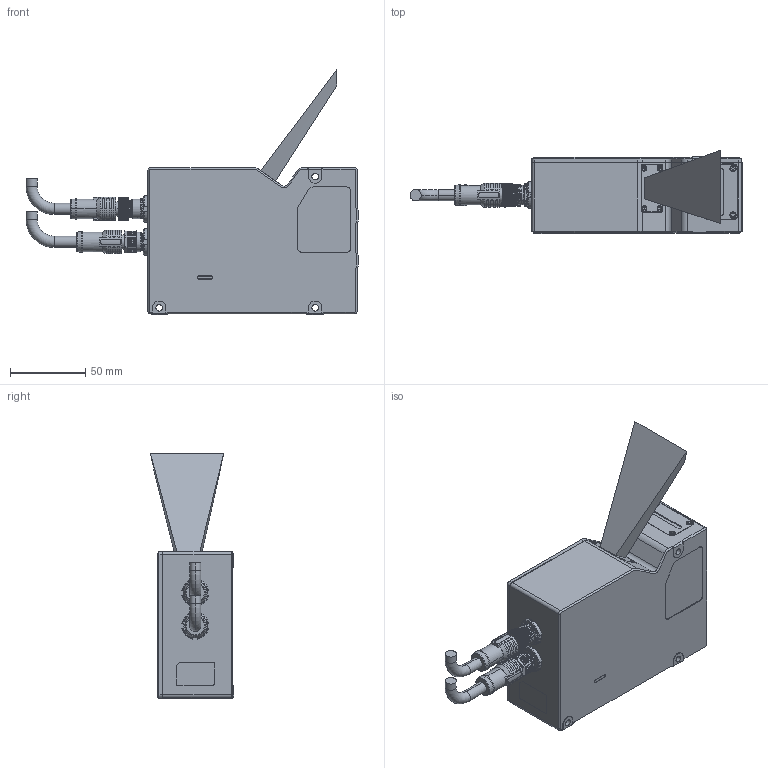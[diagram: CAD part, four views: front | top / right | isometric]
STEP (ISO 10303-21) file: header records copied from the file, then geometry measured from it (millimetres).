
FILE_DESCRIPTION((''),'2;1');
FILE_NAME('PRT0019','2026-05-23T11:25:22',('wangjiayi28'),(''),'CREO PARAMETRIC BY PTC INC, 2020044','CREO PARAMETRIC BY PTC INC, 2020044','');
FILE_SCHEMA(('AUTOMOTIVE_DESIGN { 1 0 10303 214 1 1 1 1 }'));
Products named in the file (1): PRT0019
Bounding box: 221.25 x 55.4 x 163.4 mm (x, y, z)
Volume: 3672.3 mm3; surface area: 73815.2 mm2
Topology: 2 solids, 62 shells, 1874 faces, 5611 edges, 3729 vertices
Faces by surface type: plane 974, cylinder 534, cone 185, bspline 101, torus 78, extrusion 2
Entity records: 105232 total; most frequent: CARTESIAN_POINT 56570, ORIENTED_EDGE 10016, DIRECTION 9599, EDGE_CURVE 5577, VERTEX_POINT 3729, AXIS2_PLACEMENT_3D 3463, VECTOR 2673, LINE 2671
